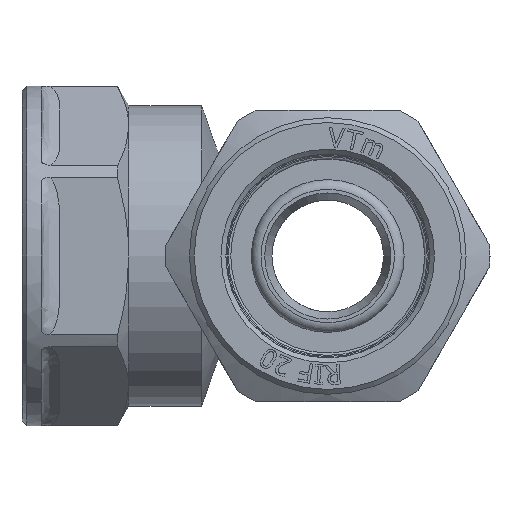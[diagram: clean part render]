
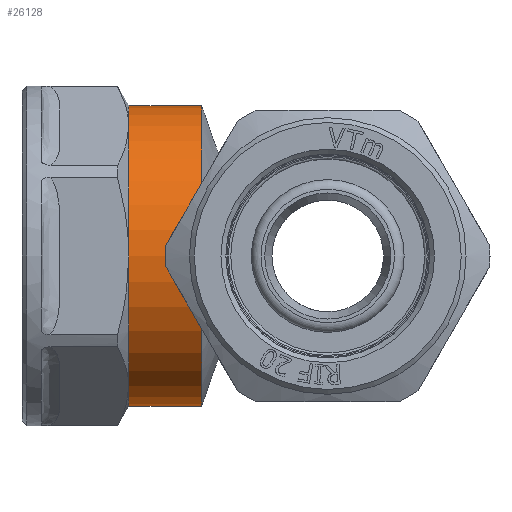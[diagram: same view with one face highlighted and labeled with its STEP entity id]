
A CAD part, left-side view. The second image highlights one B-rep face of the part: STEP entity #26128.
In plain terms, the highlighted cylindrical face has radius 15.5 mm (diameter 31 mm), a full revolution.
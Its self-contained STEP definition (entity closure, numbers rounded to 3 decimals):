
#400=CYLINDRICAL_SURFACE('',#27364,15.5);
#2085=LINE('',#63722,#3779);
#3779=VECTOR('',#31520,15.5);
#5933=FACE_OUTER_BOUND('',#7444,.T.);
#7444=EDGE_LOOP('',(#24037,#24038,#24039,#24040,#24041,#24042,#24043,#24044,
#24045,#24046));
#9155=CIRCLE('',#26315,15.5);
#9156=CIRCLE('',#26316,15.5);
#9186=CIRCLE('',#26450,15.5);
#9187=CIRCLE('',#26452,15.5);
#9189=CIRCLE('',#26455,15.5);
#9192=CIRCLE('',#26459,15.5);
#9193=CIRCLE('',#26461,15.5);
#9630=CIRCLE('',#27365,15.5);
#9938=VERTEX_POINT('',#34762);
#9939=VERTEX_POINT('',#34764);
#10134=VERTEX_POINT('',#35929);
#10141=VERTEX_POINT('',#36166);
#10149=VERTEX_POINT('',#36329);
#10156=VERTEX_POINT('',#36566);
#10163=VERTEX_POINT('',#36727);
#10170=VERTEX_POINT('',#36964);
#12673=EDGE_CURVE('',#9938,#9939,#9155,.T.);
#12674=EDGE_CURVE('',#9939,#9938,#9156,.T.);
#13027=EDGE_CURVE('',#10163,#10170,#9186,.T.);
#13028=EDGE_CURVE('',#10141,#10134,#9187,.T.);
#13030=EDGE_CURVE('',#10149,#10141,#9189,.T.);
#13033=EDGE_CURVE('',#10156,#10149,#9192,.T.);
#13034=EDGE_CURVE('',#10170,#10156,#9193,.T.);
#16263=EDGE_CURVE('',#9938,#10149,#2085,.T.);
#16264=EDGE_CURVE('',#10134,#10163,#9630,.T.);
#24037=ORIENTED_EDGE('',*,*,#12674,.F.);
#24038=ORIENTED_EDGE('',*,*,#12673,.F.);
#24039=ORIENTED_EDGE('',*,*,#16263,.T.);
#24040=ORIENTED_EDGE('',*,*,#13030,.T.);
#24041=ORIENTED_EDGE('',*,*,#13028,.T.);
#24042=ORIENTED_EDGE('',*,*,#16264,.T.);
#24043=ORIENTED_EDGE('',*,*,#13027,.T.);
#24044=ORIENTED_EDGE('',*,*,#13034,.T.);
#24045=ORIENTED_EDGE('',*,*,#13033,.T.);
#24046=ORIENTED_EDGE('',*,*,#16263,.F.);
#26128=ADVANCED_FACE('',(#5933),#400,.T.);
#26315=AXIS2_PLACEMENT_3D('',#34765,#27819,#27820);
#26316=AXIS2_PLACEMENT_3D('',#34766,#27821,#27822);
#26450=AXIS2_PLACEMENT_3D('',#36975,#28329,#28330);
#26452=AXIS2_PLACEMENT_3D('',#36977,#28333,#28334);
#26455=AXIS2_PLACEMENT_3D('',#36980,#28339,#28340);
#26459=AXIS2_PLACEMENT_3D('',#36984,#28347,#28348);
#26461=AXIS2_PLACEMENT_3D('',#36986,#28351,#28352);
#27364=AXIS2_PLACEMENT_3D('',#63721,#31518,#31519);
#27365=AXIS2_PLACEMENT_3D('',#63723,#31521,#31522);
#27819=DIRECTION('center_axis',(0.,-1.,0.));
#27820=DIRECTION('ref_axis',(1.,0.,0.));
#27821=DIRECTION('center_axis',(0.,-1.,0.));
#27822=DIRECTION('ref_axis',(1.,0.,0.));
#28329=DIRECTION('center_axis',(0.,-1.,0.));
#28330=DIRECTION('ref_axis',(1.,0.,0.));
#28333=DIRECTION('center_axis',(0.,-1.,0.));
#28334=DIRECTION('ref_axis',(1.,0.,0.));
#28339=DIRECTION('center_axis',(0.,-1.,0.));
#28340=DIRECTION('ref_axis',(1.,0.,0.));
#28347=DIRECTION('center_axis',(0.,-1.,0.));
#28348=DIRECTION('ref_axis',(1.,0.,0.));
#28351=DIRECTION('center_axis',(0.,-1.,0.));
#28352=DIRECTION('ref_axis',(1.,0.,0.));
#31518=DIRECTION('center_axis',(0.,-1.,0.));
#31519=DIRECTION('ref_axis',(1.,0.,0.));
#31520=DIRECTION('',(0.,1.,0.));
#31521=DIRECTION('center_axis',(0.,-1.,0.));
#31522=DIRECTION('ref_axis',(1.,0.,0.));
#34762=CARTESIAN_POINT('',(-15.5,13.,0.));
#34764=CARTESIAN_POINT('',(15.5,13.,0.));
#34765=CARTESIAN_POINT('Origin',(0.,13.,
0.));
#34766=CARTESIAN_POINT('Origin',(0.,13.,
0.));
#35929=CARTESIAN_POINT('',(7.75,20.5,-13.423));
#36166=CARTESIAN_POINT('',(-7.75,20.5,-13.423));
#36329=CARTESIAN_POINT('',(-15.5,20.5,0.));
#36566=CARTESIAN_POINT('',(-7.75,20.5,13.423));
#36727=CARTESIAN_POINT('',(15.5,20.5,0.));
#36964=CARTESIAN_POINT('',(7.75,20.5,13.423));
#36975=CARTESIAN_POINT('Origin',(0.,20.5,
0.));
#36977=CARTESIAN_POINT('Origin',(0.,20.5,
0.));
#36980=CARTESIAN_POINT('Origin',(0.,20.5,
0.));
#36984=CARTESIAN_POINT('Origin',(0.,20.5,
0.));
#36986=CARTESIAN_POINT('Origin',(0.,20.5,
0.));
#63721=CARTESIAN_POINT('Origin',(0.,16.75,0.));
#63722=CARTESIAN_POINT('',(-15.5,16.75,0.));
#63723=CARTESIAN_POINT('Origin',(0.,20.5,
0.));
